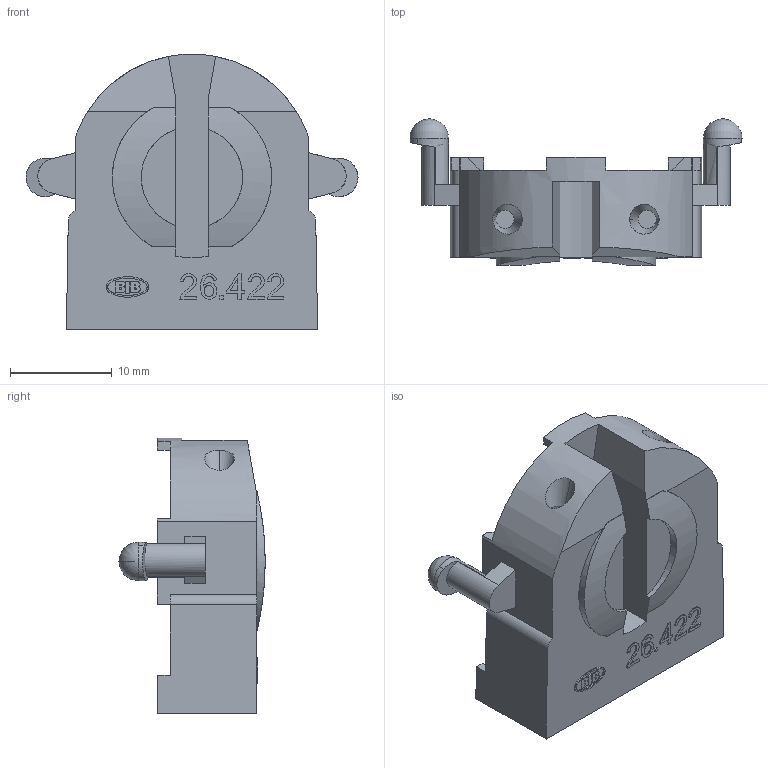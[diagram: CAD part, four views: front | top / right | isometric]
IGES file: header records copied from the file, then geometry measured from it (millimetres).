
Global section: file name: C:\CoreTechnologie\3D-in\00BY20YY03.igs; native system: CT CoreTechnologie 3D Evolution; preprocessor: 2006; date: 1180214.135207; units: millimetre
Bounding box: 32.7 x 14.4 x 27.12 mm (x, y, z)
Volume: 4518.8 mm3; surface area: 2937.9 mm2
Topology: 1 solids, 1 shells, 262 faces, 708 edges, 468 vertices
Faces by surface type: plane 169, revolution 87, bspline 6
